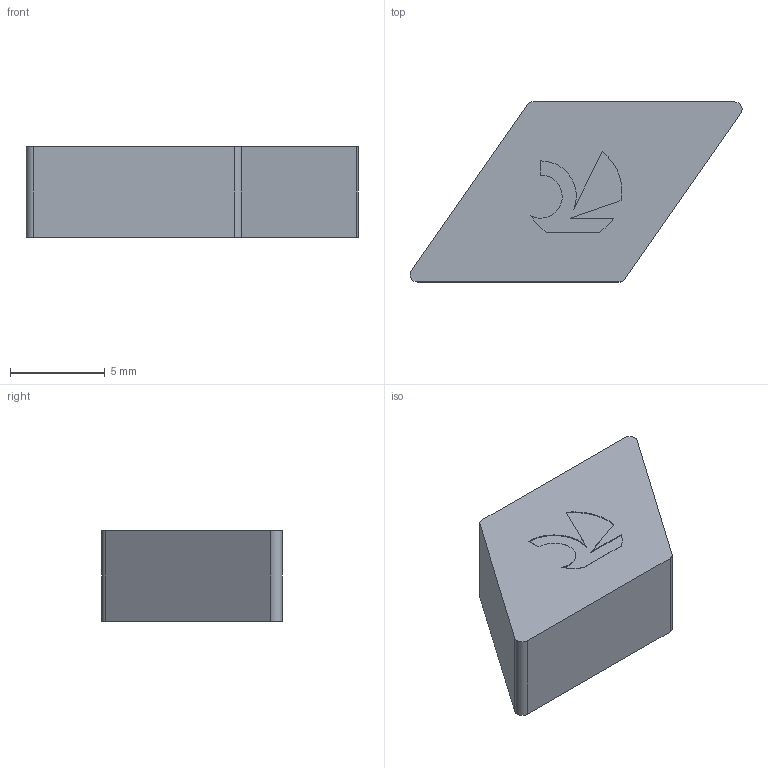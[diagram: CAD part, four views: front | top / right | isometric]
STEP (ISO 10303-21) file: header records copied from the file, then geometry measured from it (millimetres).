
FILE_DESCRIPTION(('no description'),'unknown implementation level');
FILE_NAME('solidQqjSK4o_VEdrih7JUlWfBp67_sw_1.STP',' ',('CIMSOURCE GmbH'),('CADClick - KiM GmbH - www.kimweb.de'),'unknown preprocess','ACIS','unknown authorization');
FILE_SCHEMA(('automotive_design'));
Length unit declared in the file: millimetre
Products named in the file (1): CUT
Bounding box: 17.56 x 9.53 x 4.76 mm (x, y, z)
Volume: 525.8 mm3; surface area: 437 mm2
Topology: 1 solids, 1 shells, 22 faces, 57 edges, 38 vertices
Faces by surface type: plane 12, cylinder 10
Entity records: 1366 total; most frequent: DIRECTION 127, CARTESIAN_POINT 120, STYLED_ITEM 118, PRESENTATION_STYLE_ASSIGNMENT 118, COLOUR_RGB 118, ORIENTED_EDGE 114, EDGE_CURVE 57, CURVE_STYLE 57
